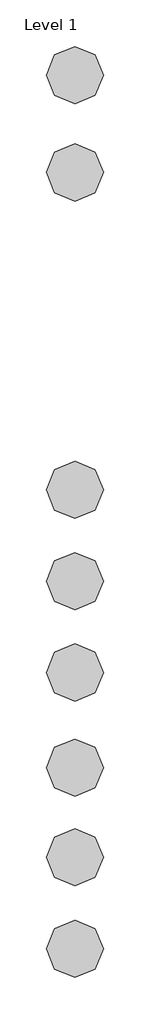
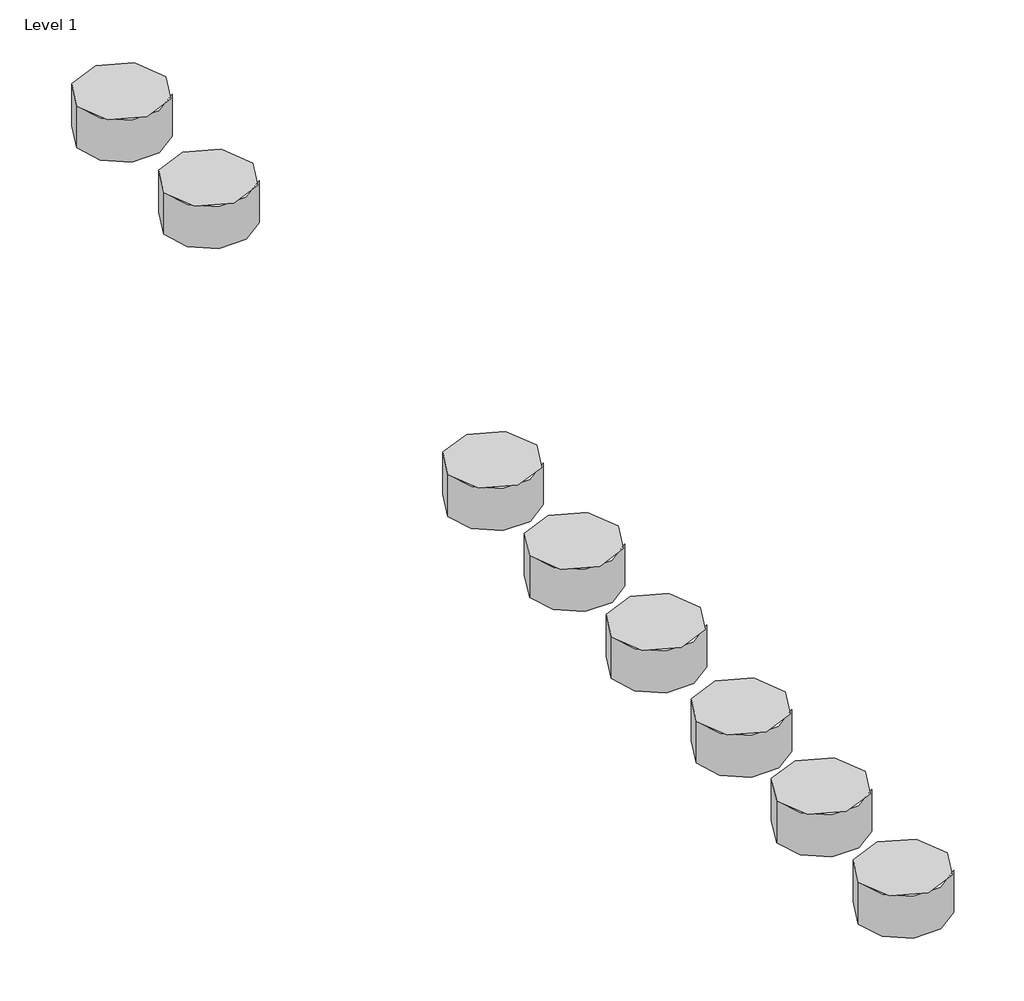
# One storey, incomplete: 8 proxies.
"""IFC4 building model written with IfcOpenShell, lengths in millimetres."""

from ifc_helpers import new_model, si_unit, origin, place, context, project, spatial, transform, mapped, element, save
from components import materialmodel_materialmodel_02e69005

model = new_model("IFC4")

# Units and contexts
model_context = context("Model", 3, world=origin())
ifc_project = project(units=[si_unit("LENGTHUNIT", "METRE", prefix="MILLI")], contexts=[model_context])

# Site, building, storey
site = spatial("IfcSite", under=ifc_project)
building = spatial("IfcBuilding", under=site)
storey = spatial("IfcBuildingStorey", under=building, Name="Level 1", Elevation=0.0)

# Proxies
placement = place(None, origin())
materialmodel_materialmodel_shape = materialmodel_materialmodel_02e69005(model_context)
element("IfcBuildingElementProxy", 1, Name="MaterialModel : MaterialModel", ObjectType="MaterialModel : MaterialModel", at=placement, inside=storey, context=model_context, shape_type="MappedRepresentation", body=[
    mapped(materialmodel_materialmodel_shape, transform((-4104.688025, 6849.714725, 0.0), x_axis=(1.0, 0.0, 0.0), y_axis=(0.0, 1.0, 0.0), z_axis=(0.0, 0.0, 1.0))),
])
element("IfcBuildingElementProxy", 2, Name="MaterialModel : MaterialModel", ObjectType="MaterialModel : MaterialModel", at=placement, inside=storey, context=model_context, shape_type="MappedRepresentation", body=[
    mapped(materialmodel_materialmodel_shape, transform((-4104.688025, 6679.714725, 0.0), x_axis=(1.0, 0.0, 0.0), y_axis=(0.0, 1.0, 0.0), z_axis=(0.0, 0.0, 1.0))),
])
element("IfcBuildingElementProxy", 3, Name="MaterialModel : MaterialModel", ObjectType="MaterialModel : MaterialModel", at=placement, inside=storey, context=model_context, shape_type="MappedRepresentation", body=[
    mapped(materialmodel_materialmodel_shape, transform((-4104.688025, 5639.9000498, 0.0), x_axis=(1.0, 0.0, 0.0), y_axis=(0.0, 1.0, 0.0), z_axis=(0.0, 0.0, 1.0))),
])
element("IfcBuildingElementProxy", 4, Name="MaterialModel : MaterialModel", ObjectType="MaterialModel : MaterialModel", at=placement, inside=storey, context=model_context, shape_type="MappedRepresentation", body=[
    mapped(materialmodel_materialmodel_shape, transform((-4104.688025, 5483.3800888, 0.0), x_axis=(1.0, 0.0, 0.0), y_axis=(0.0, 1.0, 0.0), z_axis=(0.0, 0.0, 1.0))),
])
element("IfcBuildingElementProxy", 5, Name="MaterialModel : MaterialModel", ObjectType="MaterialModel : MaterialModel", at=placement, inside=storey, context=model_context, shape_type="MappedRepresentation", body=[
    mapped(materialmodel_materialmodel_shape, transform((-4104.688025, 5323.3800888, 0.0), x_axis=(1.0, 0.0, 0.0), y_axis=(0.0, 1.0, 0.0), z_axis=(0.0, 0.0, 1.0))),
])
element("IfcBuildingElementProxy", 6, Name="MaterialModel : MaterialModel", ObjectType="MaterialModel : MaterialModel", at=placement, inside=storey, context=model_context, shape_type="MappedRepresentation", body=[
    mapped(materialmodel_materialmodel_shape, transform((-4104.688025, 6125.1970985, 0.0), x_axis=(1.0, 0.0, 0.0), y_axis=(0.0, 1.0, 0.0), z_axis=(0.0, 0.0, 1.0))),
])
element("IfcBuildingElementProxy", 7, Name="MaterialModel : MaterialModel", ObjectType="MaterialModel : MaterialModel", at=placement, inside=storey, context=model_context, shape_type="MappedRepresentation", body=[
    mapped(materialmodel_materialmodel_shape, transform((-4104.688025, 5965.5889332, 0.0), x_axis=(1.0, 0.0, 0.0), y_axis=(0.0, 1.0, 0.0), z_axis=(0.0, 0.0, 1.0))),
])
element("IfcBuildingElementProxy", 8, Name="MaterialModel : MaterialModel", ObjectType="MaterialModel : MaterialModel", at=placement, inside=storey, context=model_context, shape_type="MappedRepresentation", body=[
    mapped(materialmodel_materialmodel_shape, transform((-4104.688025, 5805.980768, 0.0), x_axis=(1.0, 0.0, 0.0), y_axis=(0.0, 1.0, 0.0), z_axis=(0.0, 0.0, 1.0))),
])

save(model, "model.ifc")
